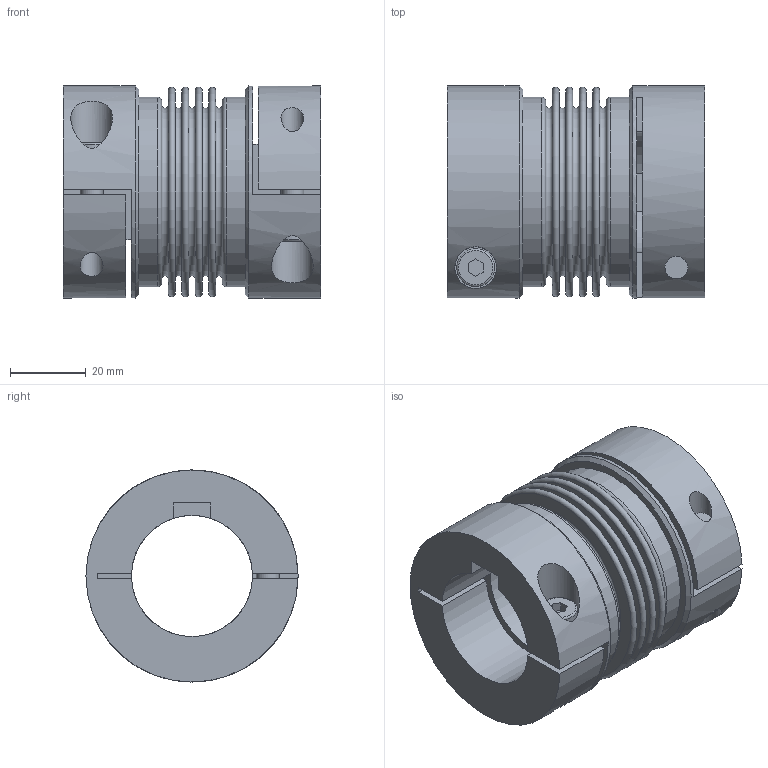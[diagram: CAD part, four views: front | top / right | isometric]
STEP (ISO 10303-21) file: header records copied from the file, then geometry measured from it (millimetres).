
FILE_DESCRIPTION(/* description */ ('STEP AP214'),/* implementation_level */ '2;1');
FILE_NAME(/* name */ 'C:\Diequa Files\DieQua Coupling\BCE\STP\BCE.30.#.#.stp',/* time_stamp */ '2018-11-20T09:51:15-06:00',/* author */ ('DiequaCAD'),/* organization */ (''),/* preprocessor_version */ 'ST-DEVELOPER v17.2',/* originating_system */ 'Autodesk Inventor 2019',/* authorisation */ ' ');
FILE_SCHEMA (('AUTOMOTIVE_DESIGN { 1 0 10303 214 3 1 1 }'));
Length unit declared in the file: millimetre
Products named in the file (1): BKL_30_32_PFN_32_PFN_41
Bounding box: 68 x 56 x 56 mm (x, y, z)
Volume: 81651.9 mm3; surface area: 36316.5 mm2
Topology: 1 solids, 1 shells, 88 faces, 215 edges, 149 vertices
Faces by surface type: plane 56, cylinder 17, torus 13, cone 2
Full cylindrical faces by diameter (mm): 6 x4, 10 x2, 11 x2, 41.989 x1, 50 x2, 56 x2
Entity records: 2851 total; most frequent: CARTESIAN_POINT 604, DIRECTION 483, ORIENTED_EDGE 430, EDGE_CURVE 215, AXIS2_PLACEMENT_3D 186, VERTEX_POINT 149, EDGE_LOOP 114, LINE 111
